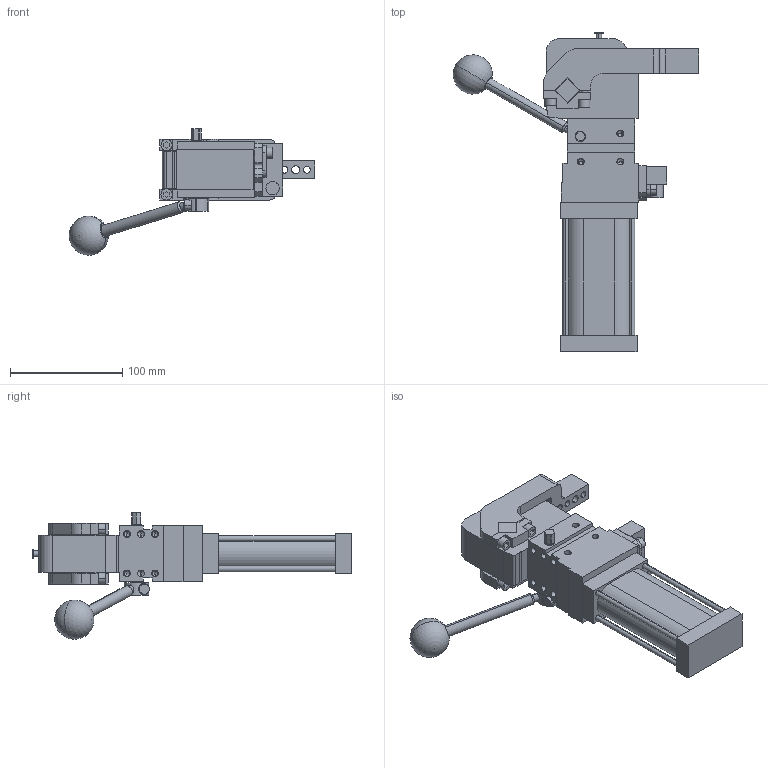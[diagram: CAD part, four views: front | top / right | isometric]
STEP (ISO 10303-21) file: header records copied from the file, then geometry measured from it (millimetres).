
FILE_DESCRIPTION (( 'STEP AP214' ), '1' );
FILE_NAME ('cplm40lbv1csi1g_31.STEP', '2021-05-25T12:08:10', ( '' ), ( '' ), 'SwSTEP 2.0', 'SolidWorks 2021', '' );
FILE_SCHEMA (( 'AUTOMOTIVE_DESIGN' ));
Length unit declared in the file: millimetre
Products named in the file (6): piastra_blocchetto_cpl40; blocchetto_VEP_0_cpl40; leva_v1c_cpl40; comando_manuale_cplm_40; cplm40lbv1csi1g_31; meccanica_cplm40
Assembly tree (5 placements, depth 2):
  cplm40lbv1csi1g_31
    meccanica_cplm40
    blocchetto_VEP_0_cpl40
    piastra_blocchetto_cpl40
    leva_v1c_cpl40
    comando_manuale_cplm_40
Bounding box: 218.69 x 285 x 112.66 mm (x, y, z)
Volume: 807121.3 mm3; surface area: 126816 mm2
Topology: 6 solids, 6 shells, 496 faces, 1276 edges, 807 vertices
Faces by surface type: plane 287, cylinder 161, cone 46, sphere 2
Entity records: 16384 total; most frequent: CARTESIAN_POINT 2655, DIRECTION 2611, ORIENTED_EDGE 2458, EDGE_CURVE 1229, AXIS2_PLACEMENT_3D 882, VECTOR 847, LINE 847, VERTEX_POINT 804
